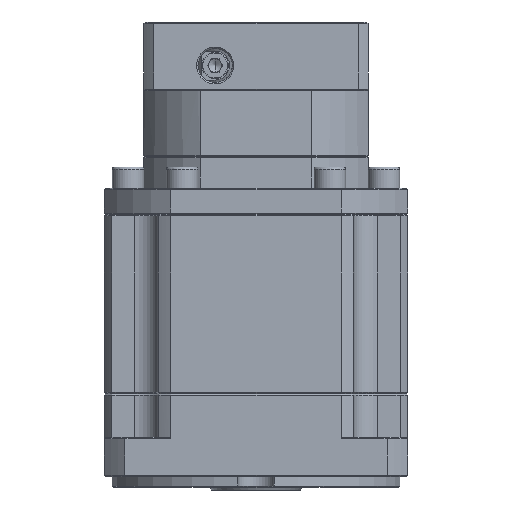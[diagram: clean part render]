
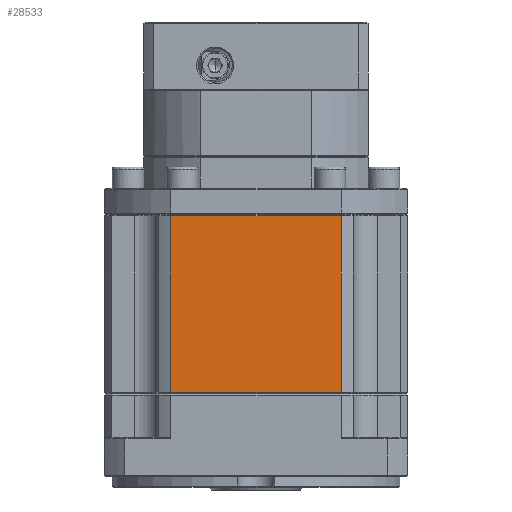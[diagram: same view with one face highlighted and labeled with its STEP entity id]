
A CAD part, front view. The second image highlights one B-rep face of the part: STEP entity #28533.
In plain terms, the highlighted planar face has unit normal (0, -1, 0).
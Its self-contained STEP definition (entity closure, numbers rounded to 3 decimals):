
#1623 = ORIENTED_EDGE ( 'NONE', *, *, #2534, .F. ) ;
#2534 = EDGE_CURVE ( 'NONE', #31441, #50653, #42108, .T. ) ;
#3854 = VERTEX_POINT ( 'NONE', #57500 ) ;
#9549 = LINE ( 'NONE', #11823, #54201 ) ;
#11823 = CARTESIAN_POINT ( 'NONE',  ( -20.082, -48.917, 200.002 ) ) ;
#12532 = EDGE_CURVE ( 'NONE', #17108, #3854, #9549, .T. ) ;
#12780 = DIRECTION ( 'NONE',  ( 1., 0., 0. ) ) ;
#16392 = ORIENTED_EDGE ( 'NONE', *, *, #77192, .F. ) ;
#17108 = VERTEX_POINT ( 'NONE', #21533 ) ;
#18396 = VECTOR ( 'NONE', #25693, 1000. ) ;
#21533 = CARTESIAN_POINT ( 'NONE',  ( -20.082, -48.917, 199.502 ) ) ;
#22020 = CARTESIAN_POINT ( 'NONE',  ( -84.881, -48.917, 132.502 ) ) ;
#25693 = DIRECTION ( 'NONE',  ( 0., 0., 1. ) ) ;
#28533 = ADVANCED_FACE ( 'NONE', ( #63680 ), #74614, .F. ) ;
#28630 = DIRECTION ( 'NONE',  ( -1., 0., 0. ) ) ;
#31441 = VERTEX_POINT ( 'NONE', #22020 ) ;
#31604 = EDGE_LOOP ( 'NONE', ( #52666, #47193, #16392, #1623 ) ) ;
#42108 = LINE ( 'NONE', #77641, #18396 ) ;
#43623 = CARTESIAN_POINT ( 'NONE',  ( -84.881, -48.917, 199.502 ) ) ;
#47193 = ORIENTED_EDGE ( 'NONE', *, *, #12532, .F. ) ;
#48543 = CARTESIAN_POINT ( 'NONE',  ( 5.018, -48.917, 200.002 ) ) ;
#50653 = VERTEX_POINT ( 'NONE', #43623 ) ;
#52666 = ORIENTED_EDGE ( 'NONE', *, *, #107720, .F. ) ;
#54201 = VECTOR ( 'NONE', #66001, 1000. ) ;
#54491 = VECTOR ( 'NONE', #12780, 1000. ) ;
#57479 = DIRECTION ( 'NONE',  ( -1., 0., 0. ) ) ;
#57500 = CARTESIAN_POINT ( 'NONE',  ( -20.082, -48.917, 132.502 ) ) ;
#63680 = FACE_OUTER_BOUND ( 'NONE', #31604, .T. ) ;
#66001 = DIRECTION ( 'NONE',  ( 0., 0., -1. ) ) ;
#73306 = LINE ( 'NONE', #90899, #97004 ) ;
#74614 = PLANE ( 'NONE',  #101864 ) ;
#77192 = EDGE_CURVE ( 'NONE', #50653, #17108, #78211, .T. ) ;
#77641 = CARTESIAN_POINT ( 'NONE',  ( -84.881, -48.917, 200.002 ) ) ;
#78211 = LINE ( 'NONE', #108662, #54491 ) ;
#90899 = CARTESIAN_POINT ( 'NONE',  ( 5.018, -48.917, 132.502 ) ) ;
#97004 = VECTOR ( 'NONE', #28630, 1000. ) ;
#101864 = AXIS2_PLACEMENT_3D ( 'NONE', #48543, #110747, #57479 ) ;
#107720 = EDGE_CURVE ( 'NONE', #3854, #31441, #73306, .T. ) ;
#108662 = CARTESIAN_POINT ( 'NONE',  ( -52.482, -48.917, 199.502 ) ) ;
#110747 = DIRECTION ( 'NONE',  ( 0., 1., 0. ) ) ;
